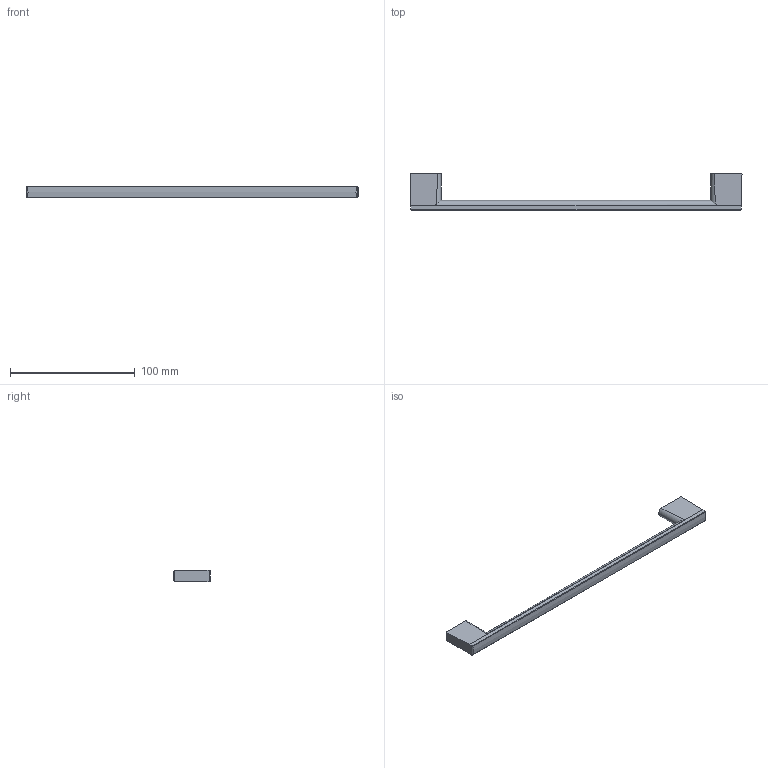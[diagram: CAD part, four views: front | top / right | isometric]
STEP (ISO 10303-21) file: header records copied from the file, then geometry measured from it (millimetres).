
FILE_DESCRIPTION( ( '' ), '1' );
FILE_NAME( 'C:/Documents and Settings/Sachin/Desktop/Sheet 10_1/stp/9995773.stp', '2013-10-22T08:51:10', ( '' ), ( '' ), ' ', ' ', ' ' );
FILE_SCHEMA( ( 'CONFIG_CONTROL_DESIGN' ) );
Length unit declared in the file: millimetre
Products named in the file (1): 1
Bounding box: 266.37 x 29.6 x 9 mm (x, y, z)
Volume: 25253.8 mm3; surface area: 11287.6 mm2
Topology: 1 solids, 1 shells, 34 faces, 86 edges, 58 vertices
Faces by surface type: cylinder 21, plane 13
Entity records: 1202 total; most frequent: CARTESIAN_POINT 319, DIRECTION 180, ORIENTED_EDGE 172, EDGE_CURVE 86, AXIS2_PLACEMENT_3D 71, VERTEX_POINT 58, EDGE_LOOP 38, LINE 38
